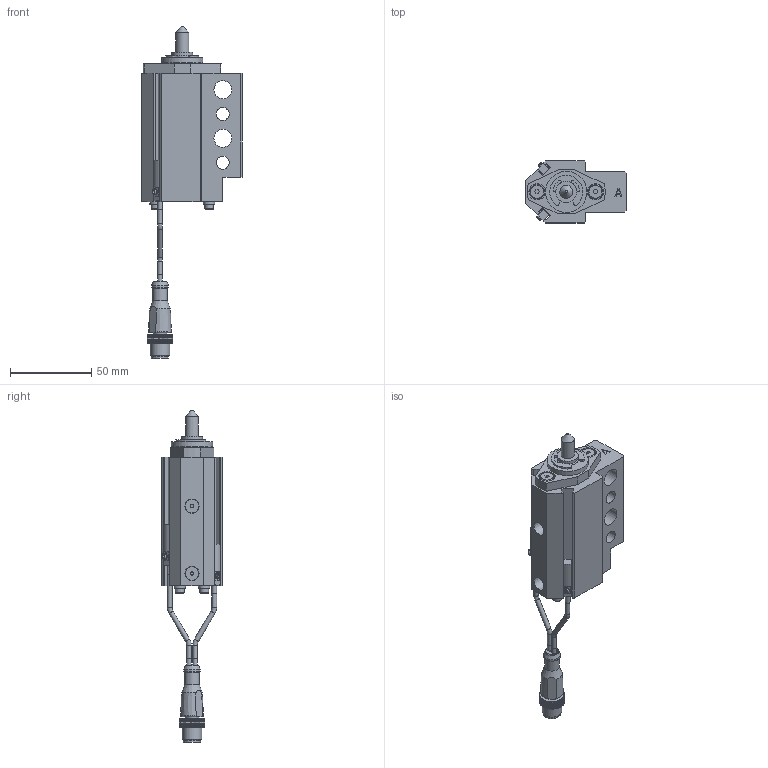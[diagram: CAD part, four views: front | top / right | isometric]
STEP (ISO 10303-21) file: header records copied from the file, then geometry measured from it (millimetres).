
FILE_DESCRIPTION(/* description */ ('NAAMS FLOATING MICRO PIN'),/* implementation_level */ '2;1');
FILE_NAME(/* name */ 'C:\Vault Workspace\CAD\Welker\Shot Pin\NMP\NMP080012AANL3.stp',/* time_stamp */ '2021-01-27T08:34:31-05:00',/* author */ ('WELKER'),/* organization */ (''),/* preprocessor_version */ 'ST-DEVELOPER v18.1',/* originating_system */ 'Autodesk Inventor 2020',/* authorisation */ '');
FILE_SCHEMA (('AUTOMOTIVE_DESIGN { 1 0 10303 214 3 1 1 }'));
Length unit declared in the file: millimetre
Products named in the file (16): NMPL01; NMP L3 SWITCH; L3 Connector; L3 Sensor 1; L3 Sensor 2; L3 Sensor cable; L3 Sensor cable 2; M3X0.5-8 SHCS; NL3; NMPE06; NMPE03; NMPE05-DIA-LENGTH; 985432A218; NMPE01A-PORT; RMPE02; M5X5 SHOULDER
Assembly tree (22 placements, depth 3):
  NMPL01
    NMP L3 SWITCH
      L3 Connector
      L3 Sensor 1
      L3 Sensor 2
      L3 Sensor cable
      L3 Sensor cable 2
    M3X0.5-8 SHCS  x4
    NL3  x4
    NMPE06
    NMPE03
    NMPE05-DIA-LENGTH
    985432A218
    NMPE01A-PORT
    RMPE02
    M5X5 SHOULDER  x2
Bounding box: 62 x 38.1 x 204.73 mm (x, y, z)
Volume: 108499.3 mm3; surface area: 45384.2 mm2
Topology: 21 solids, 21 shells, 744 faces, 2018 edges, 1349 vertices
Faces by surface type: plane 553, cylinder 144, cone 31, torus 11, sphere 3, bspline 2
Full cylindrical faces by diameter (mm): 2 x2, 2.459 x4, 2.9 x10, 3 x5, 3.242 x2, 3.4 x4, 4 x2, 5 x6, 5.5 x4, 7 x4, 8 x3, 8.3 x2, 9 x3, 10 x3, 10.4 x1, 10.5 x1, 11 x2, 12 x1, 13 x3, 16 x2, 19.05 x3, 21 x1, 22.5 x1, 23.672 x1, 24 x1, 25.4 x1, 25.5 x1, 26.5 x1, 28.677 x1, 29.21 x1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
Entity records: 22752 total; most frequent: CARTESIAN_POINT 4155, ORIENTED_EDGE 3734, DIRECTION 3717, EDGE_CURVE 1867, LINE 1383, VECTOR 1383, VERTEX_POINT 1254, AXIS2_PLACEMENT_3D 1167
